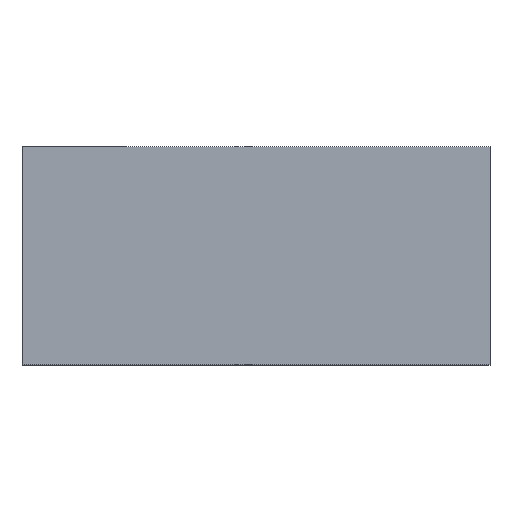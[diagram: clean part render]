
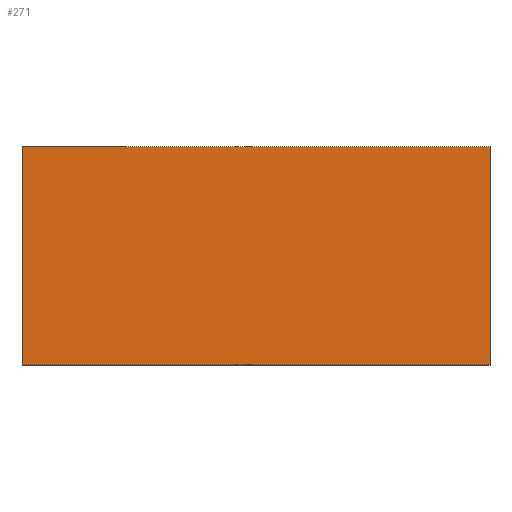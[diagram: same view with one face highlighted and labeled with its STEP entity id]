
A CAD part, top view. The second image highlights one B-rep face of the part: STEP entity #271.
In plain terms, the highlighted planar face has unit normal (0, 0, 1).
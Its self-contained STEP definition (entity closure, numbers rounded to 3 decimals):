
#232=CARTESIAN_POINT('Axis2P3D Location',(0.,0.,7.5)) ;
#237=CARTESIAN_POINT('Line Origine',(0.,-1.,7.5)) ;
#241=CARTESIAN_POINT('Vertex',(0.,6.,7.5)) ;
#243=CARTESIAN_POINT('Vertex',(0.,-8.,7.5)) ;
#246=CARTESIAN_POINT('Line Origine',(15.,-8.,7.5)) ;
#250=CARTESIAN_POINT('Vertex',(30.,-8.,7.5)) ;
#253=CARTESIAN_POINT('Line Origine',(30.,-1.,7.5)) ;
#257=CARTESIAN_POINT('Vertex',(30.,6.,7.5)) ;
#260=CARTESIAN_POINT('Line Origine',(15.,6.,7.5)) ;
#239=VECTOR('Line Direction',#238,1.) ;
#248=VECTOR('Line Direction',#247,1.) ;
#255=VECTOR('Line Direction',#254,1.) ;
#262=VECTOR('Line Direction',#261,1.) ;
#233=DIRECTION('Axis2P3D Direction',(0.,0.,1.)) ;
#234=DIRECTION('Axis2P3D XDirection',(1.,0.,0.)) ;
#238=DIRECTION('Vector Direction',(0.,-1.,0.)) ;
#247=DIRECTION('Vector Direction',(-1.,0.,0.)) ;
#254=DIRECTION('Vector Direction',(0.,1.,0.)) ;
#261=DIRECTION('Vector Direction',(1.,0.,0.)) ;
#235=AXIS2_PLACEMENT_3D('Plane Axis2P3D',#232,#233,#234) ;
#240=LINE('Line',#237,#239) ;
#249=LINE('Line',#246,#248) ;
#256=LINE('Line',#253,#255) ;
#263=LINE('Line',#260,#262) ;
#236=PLANE('',#235) ;
#245=EDGE_CURVE('',#242,#244,#240,.T.) ;
#252=EDGE_CURVE('',#244,#251,#249,.F.) ;
#259=EDGE_CURVE('',#251,#258,#256,.T.) ;
#264=EDGE_CURVE('',#258,#242,#263,.F.) ;
#265=EDGE_LOOP('',(#266,#267,#268,#269)) ;
#266=ORIENTED_EDGE('',*,*,#245,.T.) ;
#267=ORIENTED_EDGE('',*,*,#252,.T.) ;
#268=ORIENTED_EDGE('',*,*,#259,.T.) ;
#269=ORIENTED_EDGE('',*,*,#264,.T.) ;
#242=VERTEX_POINT('',#241) ;
#244=VERTEX_POINT('',#243) ;
#251=VERTEX_POINT('',#250) ;
#258=VERTEX_POINT('',#257) ;
#271=ADVANCED_FACE('PartBody',(#270),#236,.T.) ;
#270=FACE_OUTER_BOUND('',#265,.T.) ;
